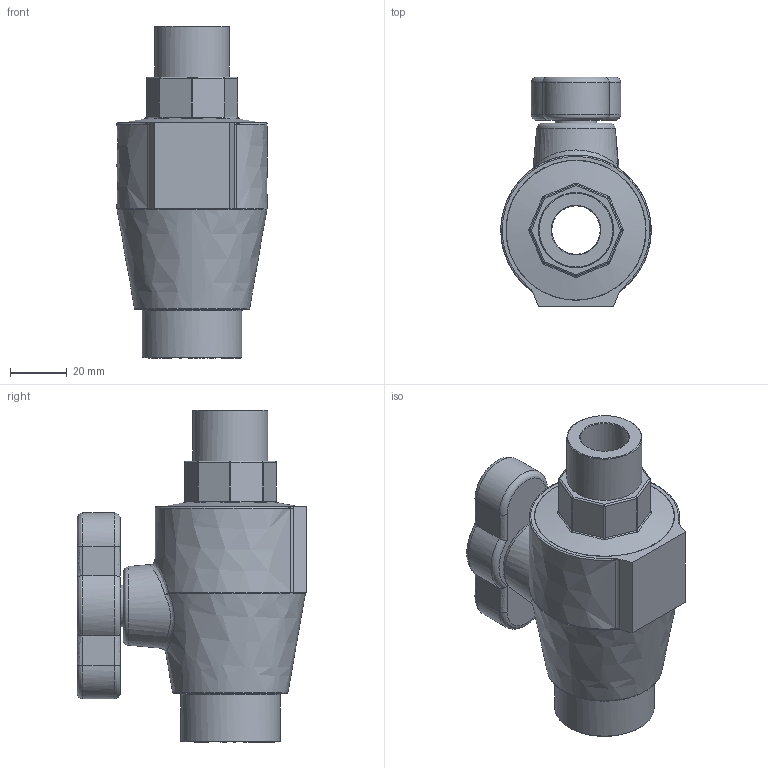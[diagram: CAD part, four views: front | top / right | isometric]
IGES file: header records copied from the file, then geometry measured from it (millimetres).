
Global section: file name: 03703020S00007_03703020SF0007; native system: Autodesk Inventor 2019; preprocessor: unknown; author: Lenora; date: 20220418.172810; units: millimetre
Bounding box: 52.99 x 81 x 117 mm (x, y, z)
Volume: 164149.1 mm3; surface area: 31639.6 mm2
Topology: 1 solids, 1 shells, 117 faces, 275 edges, 164 vertices
Faces by surface type: bspline 117
